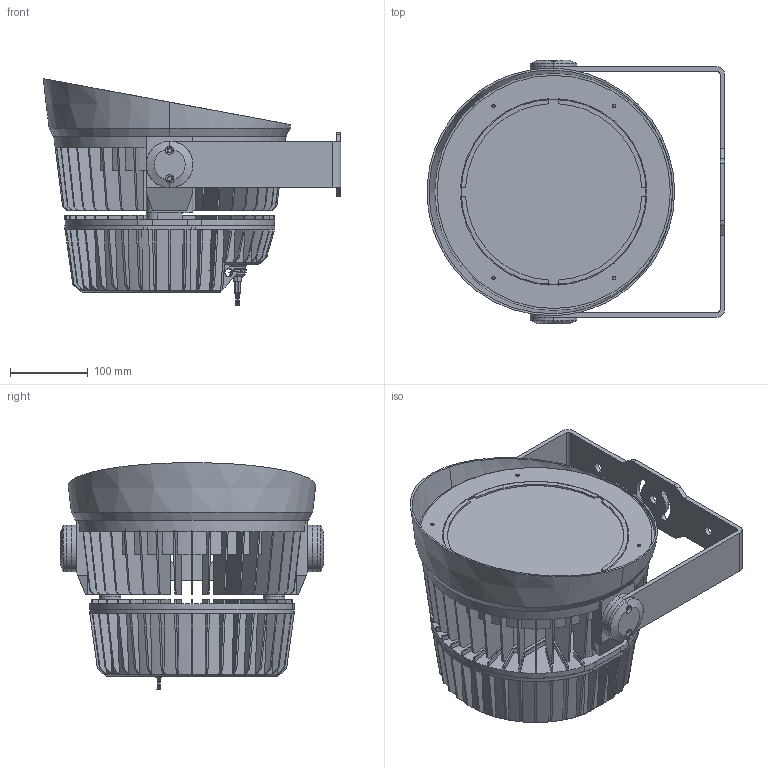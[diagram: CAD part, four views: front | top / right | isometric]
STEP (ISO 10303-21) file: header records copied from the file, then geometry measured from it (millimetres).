
FILE_DESCRIPTION (( 'STEP AP203' ), '1' );
FILE_NAME ('EW200-Faces.STEP', '2016-01-18T06:54:17', ( 'Martin Gruppen A/S' ), ( 'Martin Gruppen A/S' ), 'SwSTEP 2.0', 'SolidWorks 2014', '' );
FILE_SCHEMA (( 'CONFIG_CONTROL_DESIGN' ));
Length unit declared in the file: millimetre
Products named in the file (1): EW200-Faces
Bounding box: 382.54 x 339 x 291.44 mm (x, y, z)
Surface area: 1075791.2 mm2 (no closed solid volume)
Topology: 0 solids, 46 shells, 954 faces, 3512 edges, 2511 vertices
Faces by surface type: plane 560, cylinder 227, cone 146, bspline 19, torus 2
Entity records: 41917 total; most frequent: CARTESIAN_POINT 12928, ORIENTED_EDGE 5865, DIRECTION 5669, EDGE_CURVE 3512, VERTEX_POINT 2511, VECTOR 1997, LINE 1997, AXIS2_PLACEMENT_3D 1836
